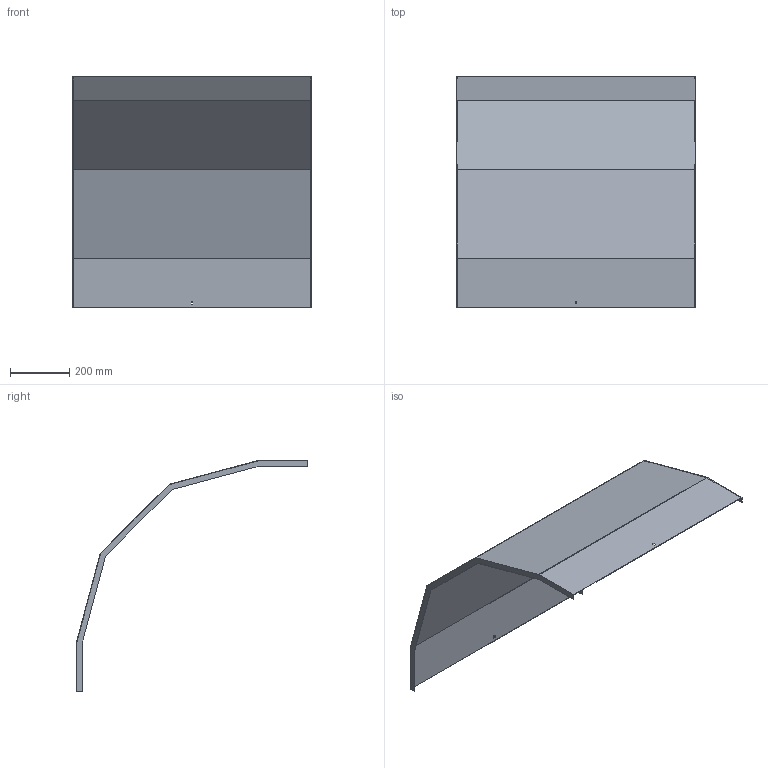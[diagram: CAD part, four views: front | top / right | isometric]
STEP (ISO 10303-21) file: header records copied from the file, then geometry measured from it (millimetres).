
FILE_DESCRIPTION (( 'STEP AP214' ), '1' );
FILE_NAME ('A2_33N5J800.step', '2025-02-21T10:46:14', ( '' ), ( '' ), 'SwSTEP 2.0', 'SolidWorks 2023', '' );
FILE_SCHEMA (( 'AUTOMOTIVE_DESIGN' ));
Length unit declared in the file: millimetre
Products named in the file (1): A2_33N5J800
Bounding box: 803 x 779.96 x 779.96 mm (x, y, z)
Volume: 1615226.7 mm3; surface area: 2160008.3 mm2
Topology: 1 solids, 1 shells, 34 faces, 96 edges, 64 vertices
Faces by surface type: plane 34
Entity records: 1111 total; most frequent: CARTESIAN_POINT 195, ORIENTED_EDGE 192, DIRECTION 166, LINE 96, VECTOR 96, EDGE_CURVE 96, VERTEX_POINT 64, EDGE_LOOP 38
